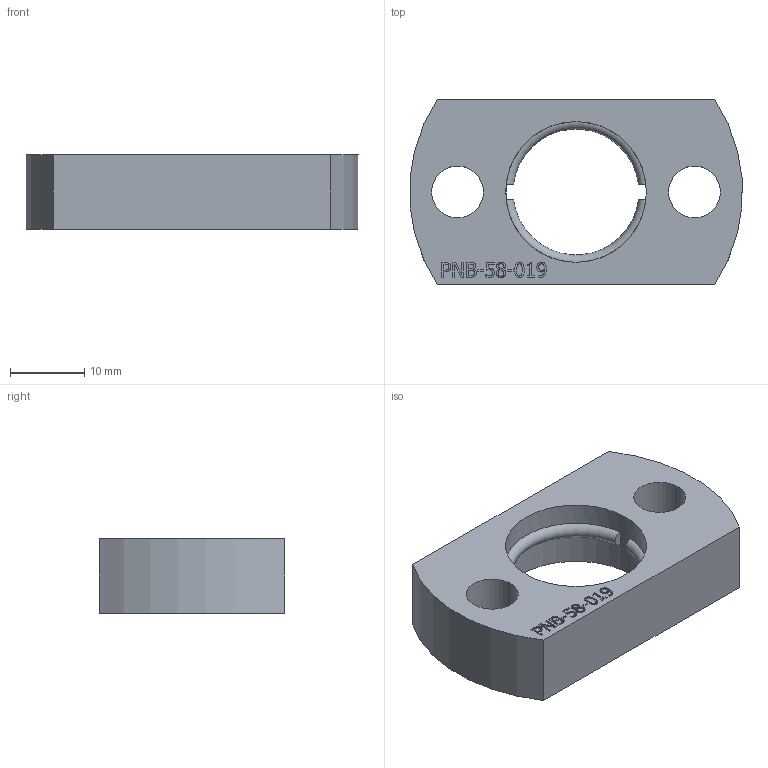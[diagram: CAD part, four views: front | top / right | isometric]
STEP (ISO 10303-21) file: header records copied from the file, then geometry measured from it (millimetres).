
FILE_DESCRIPTION(/* description */ (''),/* implementation_level */ '2;1');
FILE_NAME(/* name */ 'C:\Users\Jefferson\Desktop\Biblioteca Pro Nitro 2024 - Inventor\Flanges\PNB-58-019\PNB-58-019.stp',/* time_stamp */ '2025-01-02T09:31:12-03:00',/* author */ ('Jefferson'),/* organization */ (''),/* preprocessor_version */ 'ST-DEVELOPER v19',/* originating_system */ 'Autodesk Inventor 2023',/* authorisation */ '');
FILE_SCHEMA (('AUTOMOTIVE_DESIGN { 1 0 10303 214 3 1 1 }'));
Length unit declared in the file: millimetre
Products named in the file (1): PNB-58-019
Bounding box: 44.84 x 25 x 10 mm (x, y, z)
Volume: 6804.2 mm3; surface area: 3819.4 mm2
Topology: 1 solids, 1 shells, 177 faces, 467 edges, 310 vertices
Faces by surface type: bspline 86, plane 83, cylinder 6, torus 2
Full cylindrical faces by diameter (mm): 7 x2, 19 x1, 21 x1
Entity records: 6013 total; most frequent: CARTESIAN_POINT 2141, ORIENTED_EDGE 934, DIRECTION 493, EDGE_CURVE 467, VERTEX_POINT 310, LINE 273, VECTOR 273, EDGE_LOOP 201
